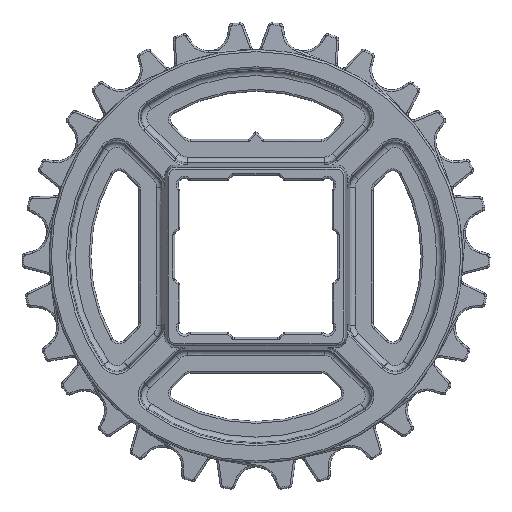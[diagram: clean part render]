
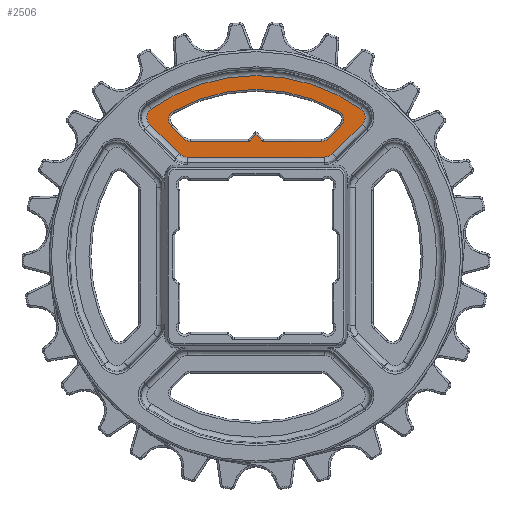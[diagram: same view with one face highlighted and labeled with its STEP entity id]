
A CAD part, top view. The second image highlights one B-rep face of the part: STEP entity #2506.
In plain terms, the highlighted planar face has unit normal (0, 0, 1).
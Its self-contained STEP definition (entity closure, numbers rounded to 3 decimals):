
#1753=FACE_BOUND('',#5410,.T.);
#1754=FACE_BOUND('',#5411,.T.);
#1839=PLANE('',#19821);
#2099=B_SPLINE_CURVE_WITH_KNOTS('',3,(#30089,#30090,#30091,#30092,#30093,
#30094,#30095,#30096,#30097,#30098),.UNSPECIFIED.,.F.,.F.,(4,3,3,4),(0.,
0.5,0.927,1.),.UNSPECIFIED.);
#2100=B_SPLINE_CURVE_WITH_KNOTS('',3,(#30100,#30101,#30102,#30103,#30104,
#30105,#30106,#30107,#30108,#30109),.UNSPECIFIED.,.F.,.F.,(4,3,3,4),(0.,
0.082,0.412,1.),.UNSPECIFIED.);
#2101=B_SPLINE_CURVE_WITH_KNOTS('',3,(#30111,#30112,#30113,#30114,#30115,
#30116,#30117,#30118,#30119,#30120),.UNSPECIFIED.,.F.,.F.,(4,3,3,4),(0.,
0.499,0.931,1.),.UNSPECIFIED.);
#2506=ADVANCED_FACE('',(#1753,#1754),#1839,.T.);
#5410=EDGE_LOOP('',(#8010,#8011,#8012,#8013,#8014,#8015,#8016,#8017,#8018,
#8019,#8020));
#5411=EDGE_LOOP('',(#8021,#8022,#8023,#8024,#8025,#8026,#8027,#8028));
#6715=CIRCLE('',#19813,2.5);
#6716=CIRCLE('',#19814,2.5);
#6717=CIRCLE('',#19815,44.25);
#6718=CIRCLE('',#19816,2.5);
#6719=CIRCLE('',#19817,2.5);
#6720=CIRCLE('',#19818,2.647);
#6721=CIRCLE('',#19819,47.897);
#6722=CIRCLE('',#19820,2.647);
#8010=ORIENTED_EDGE('',*,*,#15311,.F.);
#8011=ORIENTED_EDGE('',*,*,#15312,.F.);
#8012=ORIENTED_EDGE('',*,*,#15313,.F.);
#8013=ORIENTED_EDGE('',*,*,#15314,.F.);
#8014=ORIENTED_EDGE('',*,*,#15315,.F.);
#8015=ORIENTED_EDGE('',*,*,#15316,.F.);
#8016=ORIENTED_EDGE('',*,*,#15317,.F.);
#8017=ORIENTED_EDGE('',*,*,#15318,.F.);
#8018=ORIENTED_EDGE('',*,*,#15319,.F.);
#8019=ORIENTED_EDGE('',*,*,#15320,.F.);
#8020=ORIENTED_EDGE('',*,*,#15321,.F.);
#8021=ORIENTED_EDGE('',*,*,#15322,.F.);
#8022=ORIENTED_EDGE('',*,*,#15323,.F.);
#8023=ORIENTED_EDGE('',*,*,#15324,.F.);
#8024=ORIENTED_EDGE('',*,*,#15325,.F.);
#8025=ORIENTED_EDGE('',*,*,#15326,.F.);
#8026=ORIENTED_EDGE('',*,*,#15327,.F.);
#8027=ORIENTED_EDGE('',*,*,#15328,.F.);
#8028=ORIENTED_EDGE('',*,*,#15329,.F.);
#13540=VERTEX_POINT('',#30065);
#13541=VERTEX_POINT('',#30066);
#13542=VERTEX_POINT('',#30068);
#13543=VERTEX_POINT('',#30070);
#13544=VERTEX_POINT('',#30072);
#13545=VERTEX_POINT('',#30074);
#13546=VERTEX_POINT('',#30076);
#13547=VERTEX_POINT('',#30078);
#13548=VERTEX_POINT('',#30080);
#13549=VERTEX_POINT('',#30082);
#13550=VERTEX_POINT('',#30084);
#13551=VERTEX_POINT('',#30087);
#13552=VERTEX_POINT('',#30088);
#13553=VERTEX_POINT('',#30099);
#13554=VERTEX_POINT('',#30110);
#13555=VERTEX_POINT('',#30121);
#13556=VERTEX_POINT('',#30123);
#13557=VERTEX_POINT('',#30125);
#13558=VERTEX_POINT('',#30127);
#15311=EDGE_CURVE('',#13540,#13541,#17917,.T.);
#15312=EDGE_CURVE('',#13542,#13540,#17918,.T.);
#15313=EDGE_CURVE('',#13543,#13542,#6715,.T.);
#15314=EDGE_CURVE('',#13544,#13543,#17919,.T.);
#15315=EDGE_CURVE('',#13545,#13544,#6716,.T.);
#15316=EDGE_CURVE('',#13546,#13545,#6717,.T.);
#15317=EDGE_CURVE('',#13547,#13546,#6718,.T.);
#15318=EDGE_CURVE('',#13548,#13547,#17920,.T.);
#15319=EDGE_CURVE('',#13549,#13548,#6719,.T.);
#15320=EDGE_CURVE('',#13550,#13549,#17921,.T.);
#15321=EDGE_CURVE('',#13541,#13550,#17922,.T.);
#15322=EDGE_CURVE('',#13551,#13552,#17923,.T.);
#15323=EDGE_CURVE('',#13553,#13551,#2099,.T.);
#15324=EDGE_CURVE('',#13554,#13553,#2100,.T.);
#15325=EDGE_CURVE('',#13555,#13554,#2101,.T.);
#15326=EDGE_CURVE('',#13556,#13555,#17924,.T.);
#15327=EDGE_CURVE('',#13557,#13556,#6720,.T.);
#15328=EDGE_CURVE('',#13558,#13557,#6721,.T.);
#15329=EDGE_CURVE('',#13552,#13558,#6722,.T.);
#17917=LINE('',#30064,#18845);
#17918=LINE('',#30067,#18846);
#17919=LINE('',#30071,#18847);
#17920=LINE('',#30079,#18848);
#17921=LINE('',#30083,#18849);
#17922=LINE('',#30085,#18850);
#17923=LINE('',#30086,#18851);
#17924=LINE('',#30122,#18852);
#18845=VECTOR('',#22702,1.);
#18846=VECTOR('',#22703,1.);
#18847=VECTOR('',#22706,1.);
#18848=VECTOR('',#22713,1.);
#18849=VECTOR('',#22716,1.);
#18850=VECTOR('',#22717,1.);
#18851=VECTOR('',#22718,1.);
#18852=VECTOR('',#22719,1.);
#19813=AXIS2_PLACEMENT_3D('',#30069,#22704,#22705);
#19814=AXIS2_PLACEMENT_3D('',#30073,#22707,#22708);
#19815=AXIS2_PLACEMENT_3D('',#30075,#22709,#22710);
#19816=AXIS2_PLACEMENT_3D('',#30077,#22711,#22712);
#19817=AXIS2_PLACEMENT_3D('',#30081,#22714,#22715);
#19818=AXIS2_PLACEMENT_3D('',#30124,#22720,#22721);
#19819=AXIS2_PLACEMENT_3D('',#30126,#22722,#22723);
#19820=AXIS2_PLACEMENT_3D('',#30128,#22724,#22725);
#19821=AXIS2_PLACEMENT_3D('',#30129,#22726,#22727);
#22702=DIRECTION('',(0.707,0.707,0.));
#22703=DIRECTION('',(1.,0.,0.));
#22704=DIRECTION('',(0.,0.,1.));
#22705=DIRECTION('',(-1.,0.,0.));
#22706=DIRECTION('',(0.707,-0.707,0.));
#22707=DIRECTION('',(0.,0.,1.));
#22708=DIRECTION('',(-1.,0.,0.));
#22709=DIRECTION('',(0.,0.,1.));
#22710=DIRECTION('',(-1.,0.,0.));
#22711=DIRECTION('',(0.,0.,1.));
#22712=DIRECTION('',(-1.,0.,0.));
#22713=DIRECTION('',(0.707,0.707,0.));
#22714=DIRECTION('',(0.,0.,1.));
#22715=DIRECTION('',(-1.,0.,0.));
#22716=DIRECTION('',(1.,0.,0.));
#22717=DIRECTION('',(0.707,-0.707,0.));
#22718=DIRECTION('',(-0.707,0.707,0.));
#22719=DIRECTION('',(-0.707,-0.707,0.));
#22720=DIRECTION('',(0.,0.,-1.));
#22721=DIRECTION('',(-1.,0.,0.));
#22722=DIRECTION('',(0.,0.,-1.));
#22723=DIRECTION('',(-1.,0.,0.));
#22724=DIRECTION('',(0.,0.,-1.));
#22725=DIRECTION('',(-1.,0.,0.));
#22726=DIRECTION('',(0.,0.,1.));
#22727=DIRECTION('',(-1.,0.,0.));
#30064=CARTESIAN_POINT('',(1192.616,579.893,23.5));
#30065=CARTESIAN_POINT('',(1190.47,577.746,23.5));
#30066=CARTESIAN_POINT('',(1192.263,579.539,23.5));
#30067=CARTESIAN_POINT('',(1190.263,577.746,23.5));
#30068=CARTESIAN_POINT('',(1174.819,577.746,23.5));
#30069=CARTESIAN_POINT('',(1174.819,580.246,23.5));
#30070=CARTESIAN_POINT('',(1173.051,578.479,23.5));
#30071=CARTESIAN_POINT('',(1173.051,578.479,23.5));
#30072=CARTESIAN_POINT('',(1169.794,581.735,23.5));
#30073=CARTESIAN_POINT('',(1171.562,583.503,23.5));
#30074=CARTESIAN_POINT('',(1170.323,585.674,23.5));
#30075=CARTESIAN_POINT('',(1192.263,547.246,23.5));
#30076=CARTESIAN_POINT('',(1214.203,585.674,23.5));
#30077=CARTESIAN_POINT('',(1212.963,583.503,23.5));
#30078=CARTESIAN_POINT('',(1214.731,581.735,23.5));
#30079=CARTESIAN_POINT('',(1214.731,581.735,23.5));
#30080=CARTESIAN_POINT('',(1211.474,578.479,23.5));
#30081=CARTESIAN_POINT('',(1209.706,580.246,23.5));
#30082=CARTESIAN_POINT('',(1209.706,577.746,23.5));
#30083=CARTESIAN_POINT('',(1209.706,577.746,23.5));
#30084=CARTESIAN_POINT('',(1194.055,577.746,23.5));
#30085=CARTESIAN_POINT('',(1193.909,577.893,23.5));
#30086=CARTESIAN_POINT('',(1164.14,582.232,23.5));
#30087=CARTESIAN_POINT('',(1171.927,574.445,23.5));
#30088=CARTESIAN_POINT('',(1164.14,582.232,23.5));
#30089=CARTESIAN_POINT('',(1174.049,573.563,23.5));
#30090=CARTESIAN_POINT('',(1173.66,573.563,23.5));
#30091=CARTESIAN_POINT('',(1173.263,573.642,23.5));
#30092=CARTESIAN_POINT('',(1172.904,573.792,23.5));
#30093=CARTESIAN_POINT('',(1172.595,573.92,23.5));
#30094=CARTESIAN_POINT('',(1172.304,574.103,23.5));
#30095=CARTESIAN_POINT('',(1172.054,574.325,23.5));
#30096=CARTESIAN_POINT('',(1172.011,574.364,23.5));
#30097=CARTESIAN_POINT('',(1171.969,574.404,23.5));
#30098=CARTESIAN_POINT('',(1171.927,574.445,23.5));
#30099=CARTESIAN_POINT('',(1174.049,573.563,23.5));
#30100=CARTESIAN_POINT('',(1210.476,573.563,23.5));
#30101=CARTESIAN_POINT('',(1209.476,573.563,23.5));
#30102=CARTESIAN_POINT('',(1208.476,573.563,23.5));
#30103=CARTESIAN_POINT('',(1207.476,573.563,23.5));
#30104=CARTESIAN_POINT('',(1203.476,573.563,23.5));
#30105=CARTESIAN_POINT('',(1199.476,573.563,23.5));
#30106=CARTESIAN_POINT('',(1195.476,573.563,23.5));
#30107=CARTESIAN_POINT('',(1188.334,573.563,23.5));
#30108=CARTESIAN_POINT('',(1181.191,573.563,23.5));
#30109=CARTESIAN_POINT('',(1174.049,573.563,23.5));
#30110=CARTESIAN_POINT('',(1210.476,573.563,23.5));
#30111=CARTESIAN_POINT('',(1212.598,574.445,23.5));
#30112=CARTESIAN_POINT('',(1212.323,574.17,23.5));
#30113=CARTESIAN_POINT('',(1211.987,573.945,23.5));
#30114=CARTESIAN_POINT('',(1211.628,573.795,23.5));
#30115=CARTESIAN_POINT('',(1211.317,573.664,23.5));
#30116=CARTESIAN_POINT('',(1210.978,573.586,23.5));
#30117=CARTESIAN_POINT('',(1210.641,573.568,23.5));
#30118=CARTESIAN_POINT('',(1210.586,573.565,23.5));
#30119=CARTESIAN_POINT('',(1210.531,573.563,23.5));
#30120=CARTESIAN_POINT('',(1210.476,573.563,23.5));
#30121=CARTESIAN_POINT('',(1212.598,574.445,23.5));
#30122=CARTESIAN_POINT('',(1212.711,574.558,23.5));
#30123=CARTESIAN_POINT('',(1220.385,582.232,23.5));
#30124=CARTESIAN_POINT('',(1218.513,584.104,23.5));
#30125=CARTESIAN_POINT('',(1220.049,586.26,23.5));
#30126=CARTESIAN_POINT('',(1192.263,547.246,23.5));
#30127=CARTESIAN_POINT('',(1164.476,586.26,23.5));
#30128=CARTESIAN_POINT('',(1166.012,584.104,23.5));
#30129=CARTESIAN_POINT('',(1173.369,576.746,23.5));
